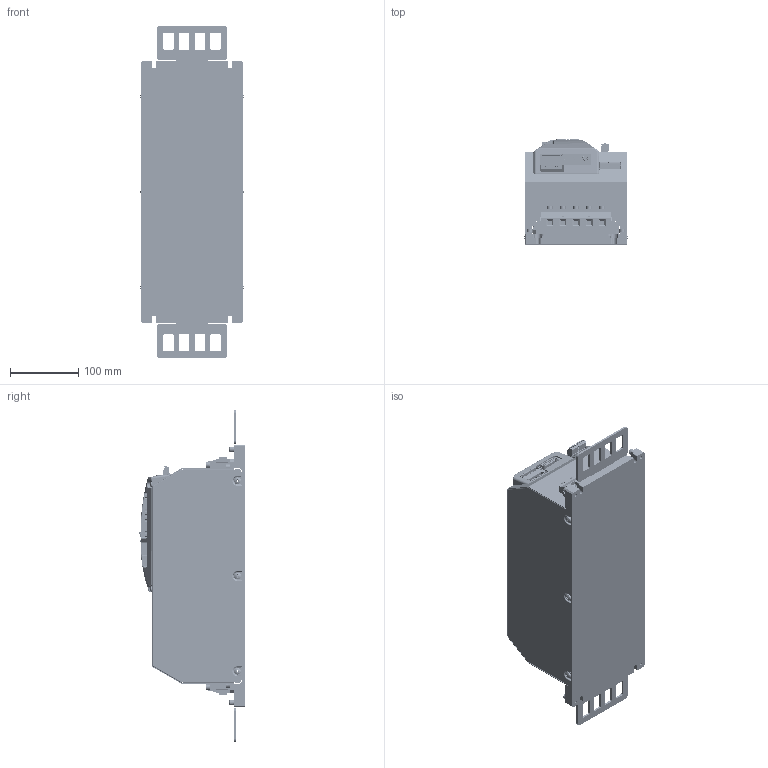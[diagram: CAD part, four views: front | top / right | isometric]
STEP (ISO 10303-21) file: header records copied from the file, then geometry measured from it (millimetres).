
FILE_DESCRIPTION((''),'2;1');
FILE_NAME('AXN22_COLD_PLATE','2015-11-09T',('hegenwang'),(''),'PRO/ENGINEER BY PARAMETRIC TECHNOLOGY CORPORATION, 2010430','PRO/ENGINEER BY PARAMETRIC TECHNOLOGY CORPORATION, 2010430','');
FILE_SCHEMA(('AUTOMOTIVE_DESIGN_CC2 { 1 2 10303 214 -1 1 5 2 }'));
Products named in the file (1): AXN22_COLD_PLATE
Bounding box: 151.89 x 154.71 x 488 mm (x, y, z)
Surface area: 639376 mm2 (no closed solid volume)
Topology: 0 solids, 1496 shells, 7262 faces, 36190 edges, 29780 vertices
Faces by surface type: plane 5031, cylinder 1710, cone 210, torus 174, sphere 78, bspline 59
Entity records: 406019 total; most frequent: CARTESIAN_POINT 97867, DIRECTION 50458, ORIENTED_EDGE 47306, EDGE_CURVE 36115, VERTEX_POINT 29776, VECTOR 27294, LINE 27294, AXIS2_PLACEMENT_3D 11582
